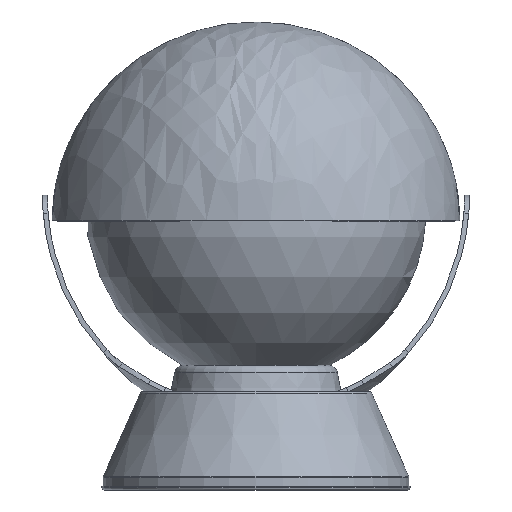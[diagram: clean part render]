
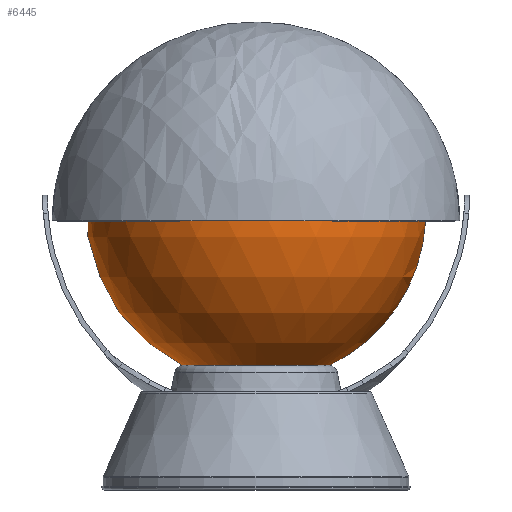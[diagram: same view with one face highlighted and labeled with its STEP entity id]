
A CAD part, front view. The second image highlights one B-rep face of the part: STEP entity #6445.
In plain terms, the highlighted spherical face has radius 70 mm.
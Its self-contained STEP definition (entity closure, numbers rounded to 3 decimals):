
#27=SPHERICAL_SURFACE('',#6943,70.);
#1918=ORIENTED_EDGE('',*,*,#3713,.F.);
#3713=EDGE_CURVE('',#4630,#4630,#5248,.F.);
#4630=VERTEX_POINT('',#10087);
#5248=CIRCLE('',#6944,30.34);
#5420=EDGE_LOOP('',(#1918));
#5944=FACE_BOUND('',#5420,.T.);
#6445=ADVANCED_FACE('',(#5944),#27,.T.);
#6943=AXIS2_PLACEMENT_3D('',#10085,#7489,#7490);
#6944=AXIS2_PLACEMENT_3D('',#10086,#7491,#7492);
#7489=DIRECTION('',(0.,0.,1.));
#7490=DIRECTION('',(1.,0.,0.));
#7491=DIRECTION('',(0.,0.,1.));
#7492=DIRECTION('',(1.,0.,0.));
#10085=CARTESIAN_POINT('',(0.,0.,0.));
#10086=CARTESIAN_POINT('',(0.,0.,-63.083));
#10087=CARTESIAN_POINT('',(30.34,0.,-63.083));
